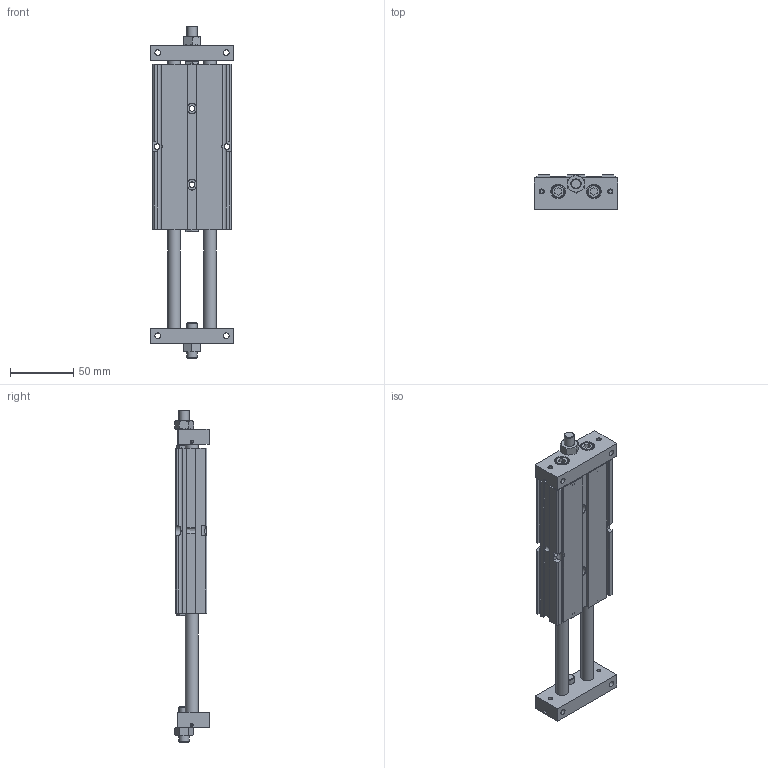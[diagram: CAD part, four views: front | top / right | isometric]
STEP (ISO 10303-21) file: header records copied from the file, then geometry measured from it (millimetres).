
FILE_DESCRIPTION((''),'2;1');
FILE_NAME('I:\3D電子目錄\氣缸\STU\STU\STU20\STU20x75.stp','2007-10-01T10:19:46',('Administrator'),(''),'Autodesk Inventor 11','Autodesk Inventor 11','');
FILE_SCHEMA(('AUTOMOTIVE_DESIGN { 1 0 10303 214 1 1 1 1 }'));
Length unit declared in the file: millimetre
Products named in the file (1): STU20
Bounding box: 66 x 27.51 x 261.5 mm (x, y, z)
Volume: 226070.8 mm3; surface area: 57062.7 mm2
Topology: 1 solids, 1 shells, 345 faces, 855 edges, 543 vertices
Faces by surface type: plane 166, cone 75, bspline 71, cylinder 29, torus 4
Full cylindrical faces by diameter (mm): 2.459 x2, 8 x6, 10 x6, 11 x4, 22 x2, 23.2 x2
Entity records: 10978 total; most frequent: CARTESIAN_POINT 3643, ORIENTED_EDGE 1470, DIRECTION 1388, EDGE_CURVE 735, EDGE_LOOP 520, VERTEX_POINT 519, AXIS2_PLACEMENT_3D 510, VECTOR 368
